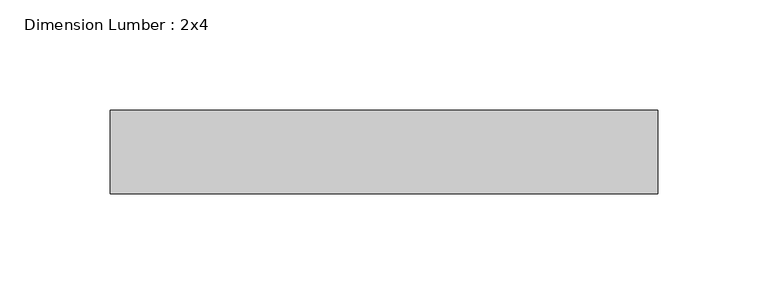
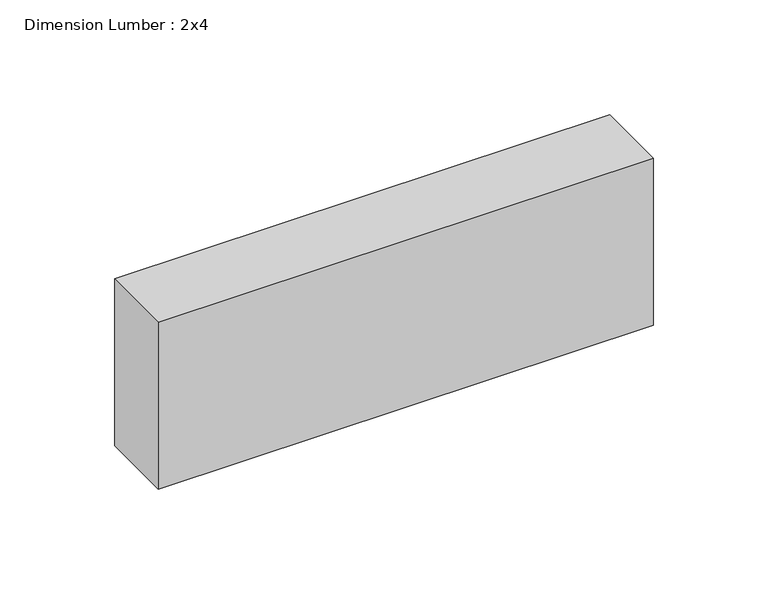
"""IFC4 building model written with IfcOpenShell, lengths in millimetres: beam geometry, Dimension Lumber : 2x4."""

from ifc_helpers import new_model, si_unit, frame, origin, place, context, project, spatial, polyline, outline, extrude, source, transform, mapped, element, save


def dimension_lumber_2x4_09b8174f(model_context):
    return source(origin(), model_context, "Body", "SweptSolid", [
        extrude(outline(polyline([(124.4862468, 19.05), (124.4862468, -19.05), (-124.4862468, -19.05), (-124.4862468, 19.05), (124.4862468, 19.05)])), frame((0.0, 0.0, -44.45), z_axis=(0.0, 0.0, 1.0), x_axis=(1.0, 0.0, 0.0)), (0.0, 0.0, 1.0), 88.9),
    ])


if __name__ == "__main__":
    model = new_model("IFC4")
    model_context = context("Model", 3, world=origin())
    ifc_project = project(units=[si_unit("LENGTHUNIT", "METRE", prefix="MILLI")], contexts=[model_context])
    site = spatial("IfcSite", under=ifc_project)
    building = spatial("IfcBuilding", under=site)
    placement = place(None, origin())
    dimension_lumber_2x4_shape = dimension_lumber_2x4_09b8174f(model_context)
    element("IfcBeam", 1, ObjectType="Dimension Lumber : 2x4", at=placement, inside=building, context=model_context, shape_type="MappedRepresentation", body=[
        mapped(dimension_lumber_2x4_shape, transform((0.0, 0.0, 0.0), x_axis=(1.0, 0.0, 0.0), y_axis=(0.0, 1.0, 0.0), z_axis=(0.0, 0.0, 1.0))),
    ])
    save(model, "model.ifc")
